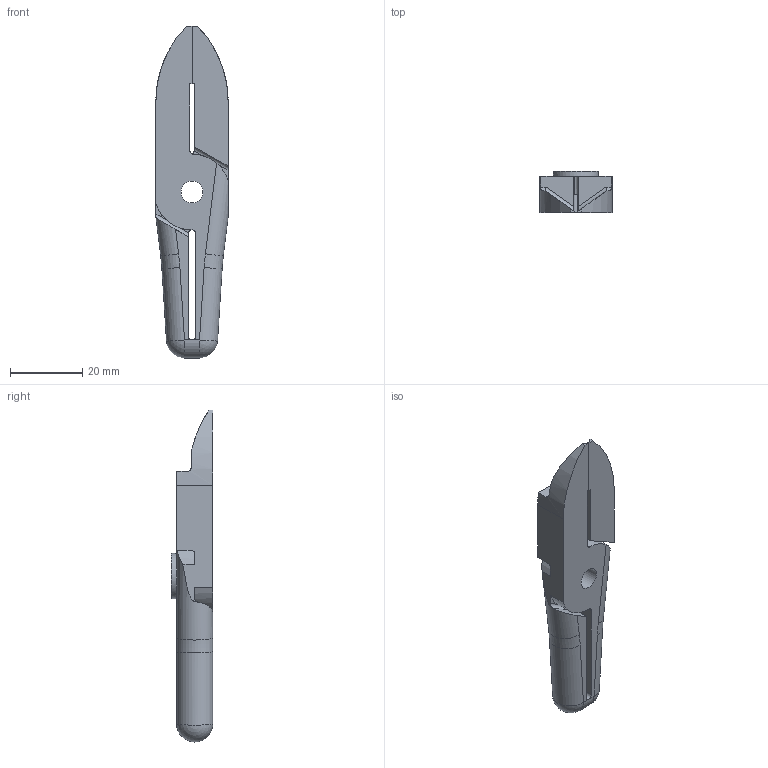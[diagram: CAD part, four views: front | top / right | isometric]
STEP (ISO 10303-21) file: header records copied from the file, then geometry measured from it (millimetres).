
FILE_DESCRIPTION(/* description */ (''),/* implementation_level */ '2;1');
FILE_NAME(/* name */ 'W:\Technik\Konstruktion\CAD-Daten\DJa\Vessel Schneidzangeneinsatz\NY25AJL\NY25AJL closed.stp',/* time_stamp */ '2016-09-20T11:16:10+02:00',/* author */ ('DJansen'),/* organization */ (''),/* preprocessor_version */ 'ST-DEVELOPER v16.5',/* originating_system */ 'Autodesk Inventor 2017',/* authorisation */ '');
FILE_SCHEMA (('AUTOMOTIVE_DESIGN { 1 0 10303 214 3 1 1 }'));
Length unit declared in the file: millimetre
Products named in the file (1): NY25AJL Baugruppe
Bounding box: 20 x 11.5 x 92 mm (x, y, z)
Volume: 11700.9 mm3; surface area: 6144 mm2
Topology: 1 solids, 1 shells, 72 faces, 191 edges, 121 vertices
Faces by surface type: plane 39, cylinder 29, sphere 2, torus 2
Full cylindrical faces by diameter (mm): 5.5 x2, 6.05 x1, 7.1 x1, 12.5 x1
Entity records: 2301 total; most frequent: CARTESIAN_POINT 476, DIRECTION 389, ORIENTED_EDGE 370, EDGE_CURVE 184, AXIS2_PLACEMENT_3D 146, VERTEX_POINT 119, LINE 97, VECTOR 97
